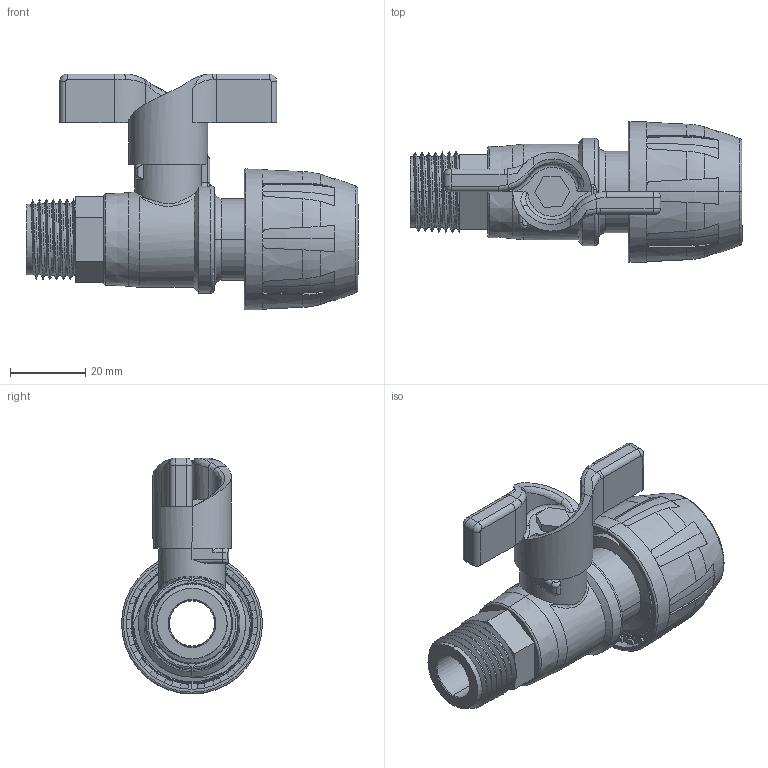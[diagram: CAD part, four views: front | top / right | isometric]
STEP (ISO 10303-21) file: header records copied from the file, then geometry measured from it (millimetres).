
FILE_DESCRIPTION (( 'STEP AP203' ), '1' );
FILE_NAME ('QLVAM016048.STEP', '2014-12-01T11:32:47', ( '' ), ( '' ), 'SwSTEP 2.0', 'SolidWorks 2013', '' );
FILE_SCHEMA (( 'CONFIG_CONTROL_DESIGN' ));
Length unit declared in the file: millimetre
Products named in the file (3): QLVAM016 ISO7; CGHQUICKN016; QLVAM016048
Assembly tree (2 placements, depth 2):
  QLVAM016048
    QLVAM016 ISO7
    CGHQUICKN016
Bounding box: 88.29 x 37.5 x 62.75 mm (x, y, z)
Volume: 44906 mm3; surface area: 30143.1 mm2
Topology: 6 solids, 6 shells, 467 faces, 1197 edges, 748 vertices
Faces by surface type: plane 170, cylinder 130, bspline 84, torus 41, cone 40, sphere 2
Entity records: 20464 total; most frequent: CARTESIAN_POINT 9517, ORIENTED_EDGE 2386, DIRECTION 2080, EDGE_CURVE 1193, AXIS2_PLACEMENT_3D 820, VERTEX_POINT 746, EDGE_LOOP 483, ADVANCED_FACE 467
